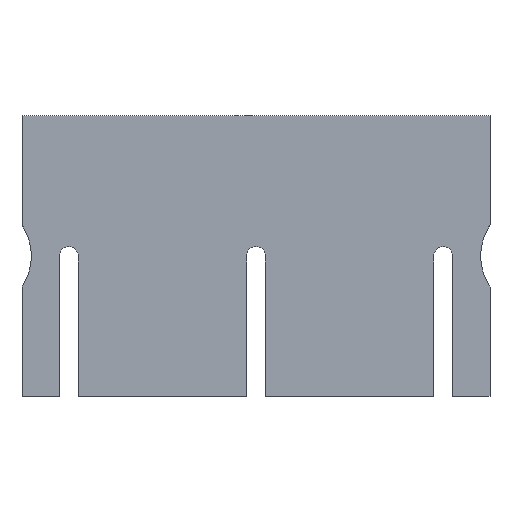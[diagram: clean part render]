
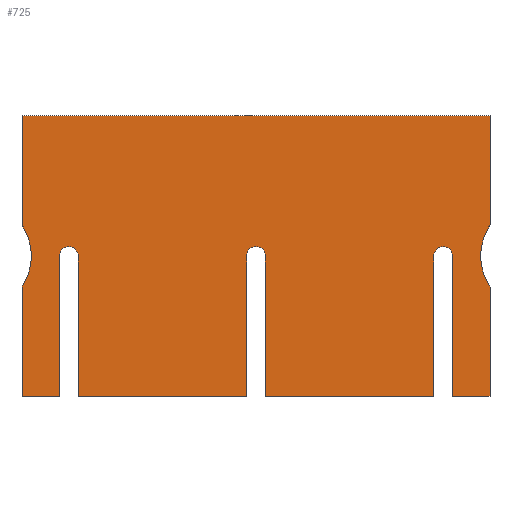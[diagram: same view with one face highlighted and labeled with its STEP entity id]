
A CAD part, top view. The second image highlights one B-rep face of the part: STEP entity #725.
In plain terms, the highlighted planar face has unit normal (0, 0, 1).
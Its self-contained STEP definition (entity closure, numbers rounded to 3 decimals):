
#83=CARTESIAN_POINT('',(0.0,95.25,6.35));
#84=VERTEX_POINT('',#83);
#91=CARTESIAN_POINT('',(158.75,95.25,6.35));
#92=VERTEX_POINT('',#91);
#93=CARTESIAN_POINT('',(158.75,95.25,6.35));
#94=DIRECTION('',(-1.0,0.0,0.0));
#95=VECTOR('',#94,158.75);
#96=LINE('',#93,#95);
#97=EDGE_CURVE('',#92,#84,#96,.T.);
#122=CARTESIAN_POINT('',(158.75,58.155,6.35));
#123=VERTEX_POINT('',#122);
#124=CARTESIAN_POINT('',(158.75,58.155,6.35));
#125=DIRECTION('',(0.0,1.0,0.0));
#126=VECTOR('',#125,37.095);
#127=LINE('',#124,#126);
#128=EDGE_CURVE('',#123,#92,#127,.T.);
#154=CARTESIAN_POINT('',(158.75,37.095,6.35));
#155=VERTEX_POINT('',#154);
#156=CARTESIAN_POINT('',(174.625,47.625,6.35));
#157=DIRECTION('',(0.0,0.0,-1.0));
#158=DIRECTION('',(0.833,-0.553,0.0));
#159=AXIS2_PLACEMENT_3D('',#156,#157,#158);
#160=CIRCLE('',#159,19.05);
#161=EDGE_CURVE('',#155,#123,#160,.T.);
#186=CARTESIAN_POINT('',(158.75,0.0,6.35));
#187=VERTEX_POINT('',#186);
#188=CARTESIAN_POINT('',(158.75,0.0,6.35));
#189=DIRECTION('',(0.0,1.0,0.0));
#190=VECTOR('',#189,37.095);
#191=LINE('',#188,#190);
#192=EDGE_CURVE('',#187,#155,#191,.T.);
#217=CARTESIAN_POINT('',(146.05,0.0,6.35));
#218=VERTEX_POINT('',#217);
#219=CARTESIAN_POINT('',(146.05,0.0,6.35));
#220=DIRECTION('',(1.0,0.0,0.0));
#221=VECTOR('',#220,12.7);
#222=LINE('',#219,#221);
#223=EDGE_CURVE('',#218,#187,#222,.T.);
#248=CARTESIAN_POINT('',(146.05,47.625,6.35));
#249=VERTEX_POINT('',#248);
#250=CARTESIAN_POINT('',(146.05,47.625,6.35));
#251=DIRECTION('',(0.0,-1.0,0.0));
#252=VECTOR('',#251,47.625);
#253=LINE('',#250,#252);
#254=EDGE_CURVE('',#249,#218,#253,.T.);
#280=CARTESIAN_POINT('',(139.7,47.625,6.35));
#281=VERTEX_POINT('',#280);
#282=CARTESIAN_POINT('',(142.875,47.625,6.35));
#283=DIRECTION('',(0.0,0.0,-1.0));
#284=DIRECTION('',(-1.0,0.0,0.0));
#285=AXIS2_PLACEMENT_3D('',#282,#283,#284);
#286=CIRCLE('',#285,3.175);
#287=EDGE_CURVE('',#281,#249,#286,.T.);
#312=CARTESIAN_POINT('',(139.7,0.0,6.35));
#313=VERTEX_POINT('',#312);
#314=CARTESIAN_POINT('',(139.7,0.0,6.35));
#315=DIRECTION('',(0.0,1.0,0.0));
#316=VECTOR('',#315,47.625);
#317=LINE('',#314,#316);
#318=EDGE_CURVE('',#313,#281,#317,.T.);
#343=CARTESIAN_POINT('',(82.55,0.0,6.35));
#344=VERTEX_POINT('',#343);
#345=CARTESIAN_POINT('',(82.55,0.0,6.35));
#346=DIRECTION('',(1.0,0.0,0.0));
#347=VECTOR('',#346,57.15);
#348=LINE('',#345,#347);
#349=EDGE_CURVE('',#344,#313,#348,.T.);
#374=CARTESIAN_POINT('',(82.55,47.625,6.35));
#375=VERTEX_POINT('',#374);
#376=CARTESIAN_POINT('',(82.55,47.625,6.35));
#377=DIRECTION('',(0.0,-1.0,0.0));
#378=VECTOR('',#377,47.625);
#379=LINE('',#376,#378);
#380=EDGE_CURVE('',#375,#344,#379,.T.);
#406=CARTESIAN_POINT('',(76.2,47.625,6.35));
#407=VERTEX_POINT('',#406);
#408=CARTESIAN_POINT('',(79.375,47.625,6.35));
#409=DIRECTION('',(0.0,0.0,-1.0));
#410=DIRECTION('',(-1.0,0.0,0.0));
#411=AXIS2_PLACEMENT_3D('',#408,#409,#410);
#412=CIRCLE('',#411,3.175);
#413=EDGE_CURVE('',#407,#375,#412,.T.);
#438=CARTESIAN_POINT('',(76.2,0.0,6.35));
#439=VERTEX_POINT('',#438);
#440=CARTESIAN_POINT('',(76.2,0.0,6.35));
#441=DIRECTION('',(0.0,1.0,0.0));
#442=VECTOR('',#441,47.625);
#443=LINE('',#440,#442);
#444=EDGE_CURVE('',#439,#407,#443,.T.);
#469=CARTESIAN_POINT('',(19.05,0.0,6.35));
#470=VERTEX_POINT('',#469);
#471=CARTESIAN_POINT('',(19.05,0.0,6.35));
#472=DIRECTION('',(1.0,0.0,0.0));
#473=VECTOR('',#472,57.15);
#474=LINE('',#471,#473);
#475=EDGE_CURVE('',#470,#439,#474,.T.);
#500=CARTESIAN_POINT('',(19.05,47.625,6.35));
#501=VERTEX_POINT('',#500);
#502=CARTESIAN_POINT('',(19.05,47.625,6.35));
#503=DIRECTION('',(0.0,-1.0,0.0));
#504=VECTOR('',#503,47.625);
#505=LINE('',#502,#504);
#506=EDGE_CURVE('',#501,#470,#505,.T.);
#532=CARTESIAN_POINT('',(12.7,47.625,6.35));
#533=VERTEX_POINT('',#532);
#534=CARTESIAN_POINT('',(15.875,47.625,6.35));
#535=DIRECTION('',(0.0,0.0,-1.0));
#536=DIRECTION('',(-1.0,0.0,0.0));
#537=AXIS2_PLACEMENT_3D('',#534,#535,#536);
#538=CIRCLE('',#537,3.175);
#539=EDGE_CURVE('',#533,#501,#538,.T.);
#564=CARTESIAN_POINT('',(12.7,0.0,6.35));
#565=VERTEX_POINT('',#564);
#566=CARTESIAN_POINT('',(12.7,0.0,6.35));
#567=DIRECTION('',(0.0,1.0,0.0));
#568=VECTOR('',#567,47.625);
#569=LINE('',#566,#568);
#570=EDGE_CURVE('',#565,#533,#569,.T.);
#595=CARTESIAN_POINT('',(0.0,0.0,6.35));
#596=VERTEX_POINT('',#595);
#597=CARTESIAN_POINT('',(0.0,0.0,6.35));
#598=DIRECTION('',(1.0,0.0,0.0));
#599=VECTOR('',#598,12.7);
#600=LINE('',#597,#599);
#601=EDGE_CURVE('',#596,#565,#600,.T.);
#626=CARTESIAN_POINT('',(0.,37.095,6.35));
#627=VERTEX_POINT('',#626);
#628=CARTESIAN_POINT('',(0.,37.095,6.35));
#629=DIRECTION('',(0.0,-1.0,0.0));
#630=VECTOR('',#629,37.095);
#631=LINE('',#628,#630);
#632=EDGE_CURVE('',#627,#596,#631,.T.);
#658=CARTESIAN_POINT('',(0.0,58.155,6.35));
#659=VERTEX_POINT('',#658);
#660=CARTESIAN_POINT('',(-15.875,47.625,6.35));
#661=DIRECTION('',(0.0,0.0,-1.0));
#662=DIRECTION('',(-0.833,0.553,0.0));
#663=AXIS2_PLACEMENT_3D('',#660,#661,#662);
#664=CIRCLE('',#663,19.05);
#665=EDGE_CURVE('',#659,#627,#664,.T.);
#688=CARTESIAN_POINT('',(0.0,95.25,6.35));
#689=DIRECTION('',(0.0,-1.0,0.0));
#690=VECTOR('',#689,37.095);
#691=LINE('',#688,#690);
#692=EDGE_CURVE('',#84,#659,#691,.T.);
#698=CARTESIAN_POINT('',(79.375,40.204,6.35));
#699=DIRECTION('',(0.0,0.0,1.0));
#700=DIRECTION('',(1.0,0.0,0.0));
#701=AXIS2_PLACEMENT_3D('',#698,#699,#700);
#702=PLANE('',#701);
#703=ORIENTED_EDGE('',*,*,#692,.T.);
#704=ORIENTED_EDGE('',*,*,#665,.T.);
#705=ORIENTED_EDGE('',*,*,#632,.T.);
#706=ORIENTED_EDGE('',*,*,#601,.T.);
#707=ORIENTED_EDGE('',*,*,#570,.T.);
#708=ORIENTED_EDGE('',*,*,#539,.T.);
#709=ORIENTED_EDGE('',*,*,#506,.T.);
#710=ORIENTED_EDGE('',*,*,#475,.T.);
#711=ORIENTED_EDGE('',*,*,#444,.T.);
#712=ORIENTED_EDGE('',*,*,#413,.T.);
#713=ORIENTED_EDGE('',*,*,#380,.T.);
#714=ORIENTED_EDGE('',*,*,#349,.T.);
#715=ORIENTED_EDGE('',*,*,#318,.T.);
#716=ORIENTED_EDGE('',*,*,#287,.T.);
#717=ORIENTED_EDGE('',*,*,#254,.T.);
#718=ORIENTED_EDGE('',*,*,#223,.T.);
#719=ORIENTED_EDGE('',*,*,#192,.T.);
#720=ORIENTED_EDGE('',*,*,#161,.T.);
#721=ORIENTED_EDGE('',*,*,#128,.T.);
#722=ORIENTED_EDGE('',*,*,#97,.T.);
#723=EDGE_LOOP('',(#703,#704,#705,#706,#707,#708,#709,#710,#711,#712,#713,#714,#715,#716,#717,#718,#719,#720,#721,#722));
#724=FACE_OUTER_BOUND('',#723,.T.);
#725=ADVANCED_FACE('',(#724),#702,.T.);
